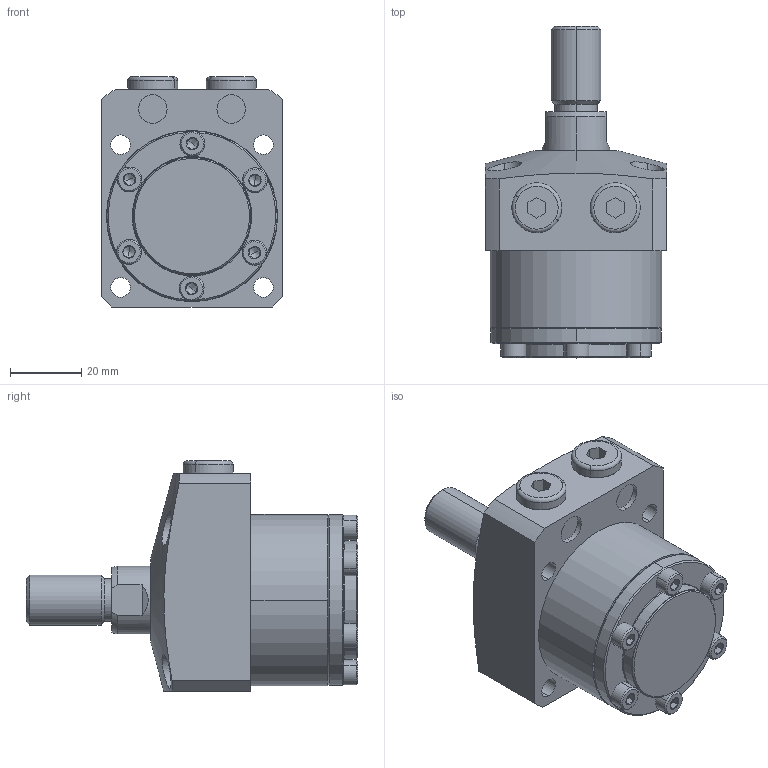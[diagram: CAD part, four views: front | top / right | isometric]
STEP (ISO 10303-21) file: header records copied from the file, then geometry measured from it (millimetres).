
FILE_DESCRIPTION (( 'STEP AP203' ), '1' );
FILE_NAME ('680480-CT-020.STEP', '2019-11-06T04:40:03', ( '微软用户' ), ( '微软中国' ), 'SwSTEP 2.0', 'SolidWorks 2014', '' );
FILE_SCHEMA (( 'CONFIG_CONTROL_DESIGN' ));
Length unit declared in the file: millimetre
Products named in the file (6): 葩璃 680480-CA-15-5^680480-CT-020; 葩璃 680480-CA-20-1^680480-CT-020; 葩璃 680480-20-12^680480-CT-020; 葩璃 680480-CA-15-3^680480-CT-020; 680480-CT-020; 葩璃 680480-CA-15-4^680480-CT-020
Assembly tree (11 placements, depth 2):
  680480-CT-020
    葩璃 680480-CA-20-1^680480-CT-020
    葩璃 680480-CA-15-3^680480-CT-020
    葩璃 680480-CA-15-4^680480-CT-020  x6
    葩璃 680480-CA-15-5^680480-CT-020  x2
    葩璃 680480-20-12^680480-CT-020
Bounding box: 51 x 93 x 64.5 mm (x, y, z)
Volume: 132108.1 mm3; surface area: 29908 mm2
Topology: 11 solids, 11 shells, 342 faces, 668 edges, 365 vertices
Faces by surface type: plane 139, cone 97, cylinder 90, torus 16
Entity records: 5549 total; most frequent: CARTESIAN_POINT 1137, DIRECTION 839, ORIENTED_EDGE 684, AXIS2_PLACEMENT_3D 350, EDGE_CURVE 342, VERTEX_POINT 208, EDGE_LOOP 198, CIRCLE 175
